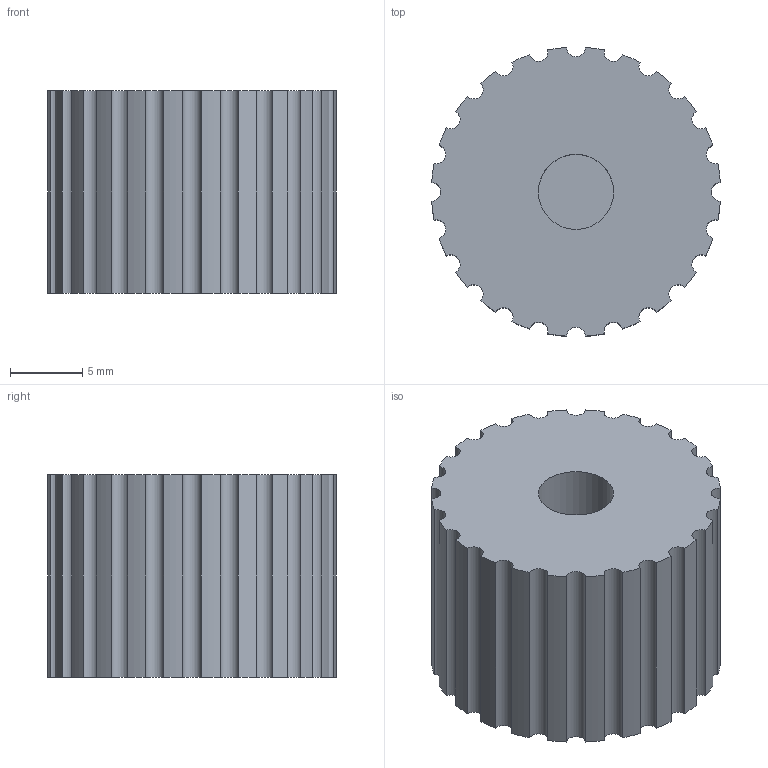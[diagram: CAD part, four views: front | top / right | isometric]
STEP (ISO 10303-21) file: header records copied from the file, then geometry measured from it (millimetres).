
FILE_DESCRIPTION(('Open CASCADE Model'),'2;1');
FILE_NAME('Open CASCADE Shape Model','2026-09-13T21:27:06',('Author'),( 'Open CASCADE'),'Open CASCADE STEP processor 7.9','Open CASCADE 7.9' ,'Unknown');
FILE_SCHEMA(('AUTOMOTIVE_DESIGN { 1 0 10303 214 1 1 1 1 }'));
Length unit declared in the file: millimetre
Products named in the file (1): Open CASCADE STEP translator 7.9 12
Bounding box: 19.96 x 19.96 x 14 mm (x, y, z)
Volume: 3941.6 mm3; surface area: 1898.4 mm2
Topology: 1 solids, 1 shells, 57 faces, 159 edges, 106 vertices
Faces by surface type: cylinder 49, plane 8
Full cylindrical faces by diameter (mm): 5.2 x1
Entity records: 3897 total; most frequent: CARTESIAN_POINT 811, DIRECTION 576, ORIENTED_EDGE 318, PCURVE 318, DEFINITIONAL_REPRESENTATION 318, CIRCLE 185, LINE 177, VECTOR 177
